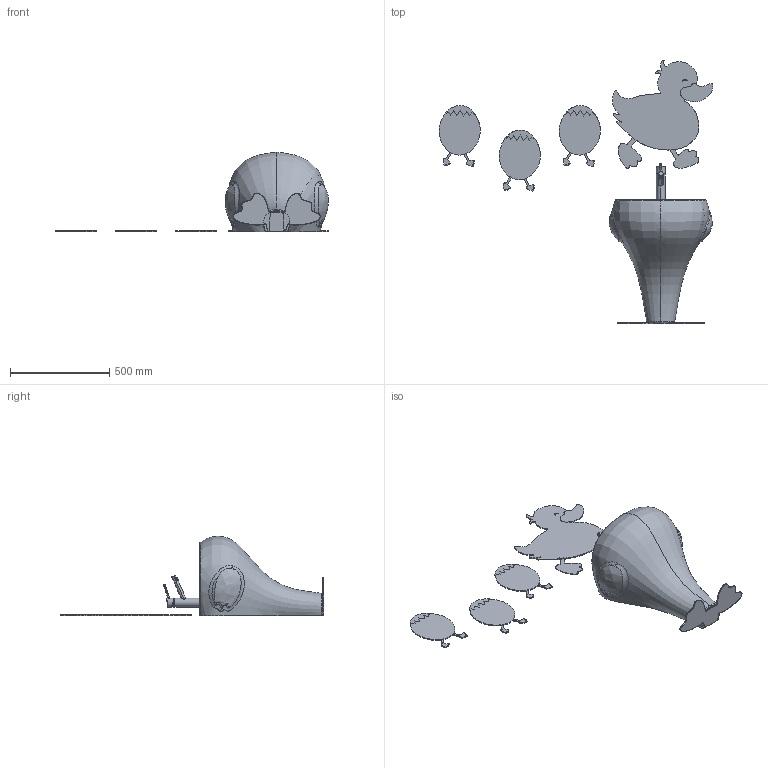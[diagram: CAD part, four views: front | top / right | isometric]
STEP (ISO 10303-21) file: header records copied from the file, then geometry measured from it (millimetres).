
FILE_DESCRIPTION (( 'STEP AP203' ), '1' );
FILE_NAME ('DC052 Ducky Lavabo.STEP', '2022-03-29T13:35:34', ( '' ), ( '' ), 'SwSTEP 2.0', 'SolidWorks 2021', '' );
FILE_SCHEMA (( 'CONFIG_CONTROL_DESIGN' ));
Products named in the file (1): DC052 Ducky Lavabo
Bounding box: 1379.74 x 1327.88 x 400 mm (x, y, z)
Volume: 23574678.5 mm3; surface area: 2241937.9 mm2
Topology: 21 solids, 23 shells, 752 faces, 1911 edges, 1180 vertices
Faces by surface type: bspline 407, cylinder 142, plane 135, torus 30, sphere 28, cone 10
Entity records: 314674 total; most frequent: CARTESIAN_POINT 299862, ORIENTED_EDGE 3760, DIRECTION 2063, EDGE_CURVE 1880, VERTEX_POINT 1180, B_SPLINE_CURVE_WITH_KNOTS 893, AXIS2_PLACEMENT_3D 815, EDGE_LOOP 766
